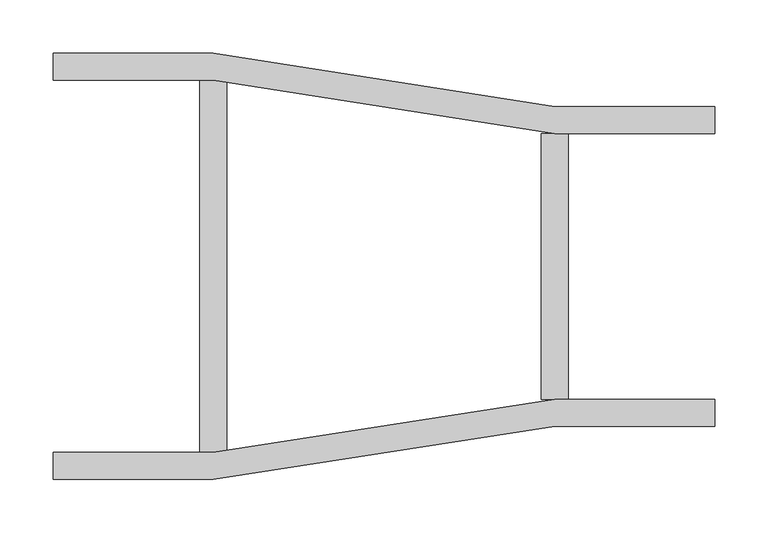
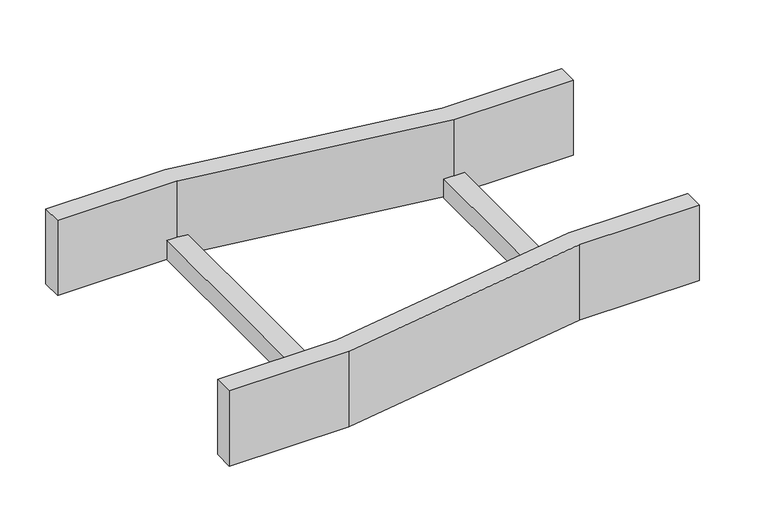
"""IFC4 building model written with IfcOpenShell, lengths in millimetres: cable carrier fitting geometry, BAKS_LD_RED_Straight reducer_RDSV : RDSVP_H100."""

from ifc_helpers import new_model, si_unit, frame, origin, place, context, project, spatial, polyline, outline, extrude, source, transform, mapped, element, save


def cable_carrier_fitting_7434552b(model_context):
    return source(origin(), model_context, "Body", "SweptSolid", [
        extrude(outline(polyline([(0.0, -200.0), (0.0, -174.6), (150.0, -174.6), (470.0, -124.6), (620.0, -124.6), (620.0, -150.0), (470.0, -150.0), (150.0, -200.0), (0.0, -200.0)])), frame((0.0, 0.0, -50.0), z_axis=(0.0, 0.0, 1.0), x_axis=(1.0, 0.0, 0.0)), (0.0, 0.0, 1.0), 100.0),
        extrude(outline(polyline([(0.0, 174.6), (0.0, 200.0), (150.0, 200.0), (470.0, 150.0), (620.0, 150.0), (620.0, 124.6), (470.0, 124.6), (150.0, 174.6), (0.0, 174.6)])), frame((0.0, 0.0, -50.0), z_axis=(0.0, 0.0, 1.0), x_axis=(1.0, 0.0, 0.0)), (0.0, 0.0, 1.0), 100.0),
        extrude(outline(polyline([(457.3, 124.6), (482.7, 124.6), (482.7, -124.6), (457.3, -124.6), (457.3, 124.6)])), frame((0.0, 0.0, -50.0), z_axis=(0.0, 0.0, 1.0), x_axis=(1.0, 0.0, 0.0)), (0.0, 0.0, 1.0), 25.4),
        extrude(outline(polyline([(137.3, 174.6), (162.7, 174.6), (162.7, -174.6), (137.3, -174.6), (137.3, 174.6)])), frame((0.0, 0.0, -50.0), z_axis=(0.0, 0.0, 1.0), x_axis=(1.0, 0.0, 0.0)), (0.0, 0.0, 1.0), 25.4),
    ])


if __name__ == "__main__":
    model = new_model("IFC4")
    model_context = context("Model", 3, world=origin())
    ifc_project = project(units=[si_unit("LENGTHUNIT", "METRE", prefix="MILLI")], contexts=[model_context])
    site = spatial("IfcSite", under=ifc_project)
    building = spatial("IfcBuilding", under=site)
    placement = place(None, origin())
    cable_carrier_fitting_shape = cable_carrier_fitting_7434552b(model_context)
    element("IfcCableCarrierFitting", 1, ObjectType="BAKS_LD_RED_Straight reducer_RDSV : RDSVP_H100", at=placement, inside=building, context=model_context, shape_type="MappedRepresentation", body=[
        mapped(cable_carrier_fitting_shape, transform((0.0, 0.0, 0.0), x_axis=(1.0, 0.0, 0.0), y_axis=(0.0, 1.0, 0.0), z_axis=(0.0, 0.0, 1.0))),
    ])
    save(model, "model.ifc")
